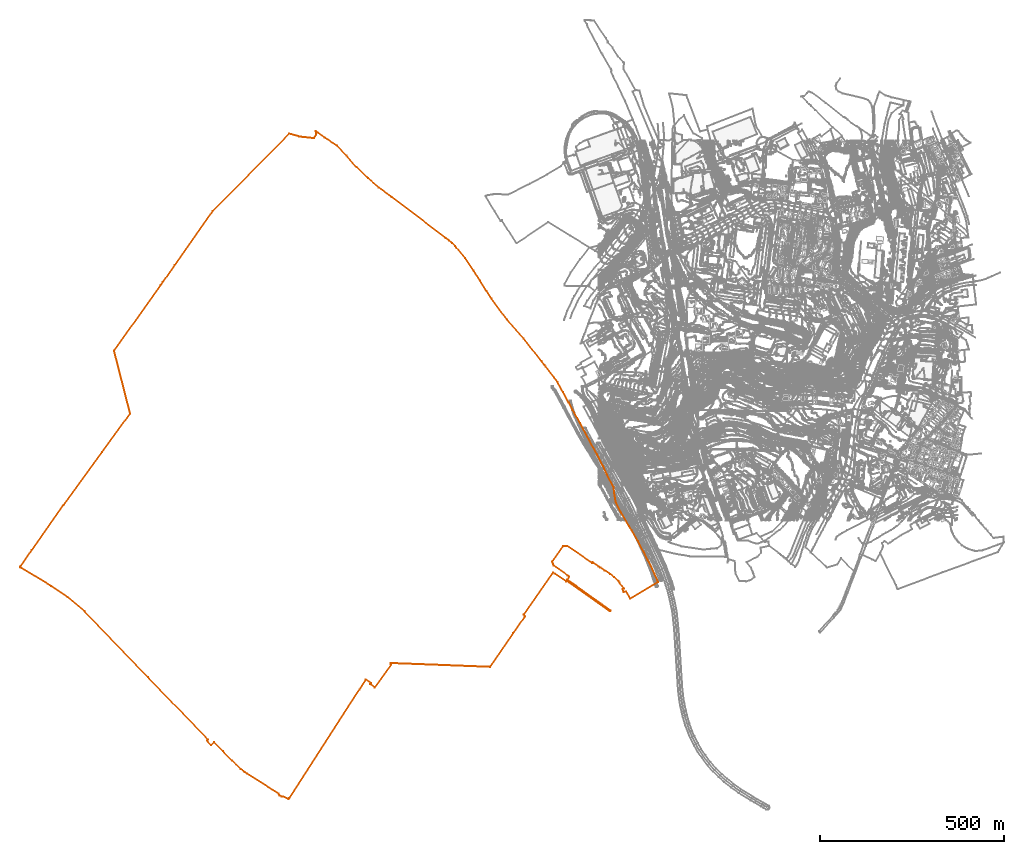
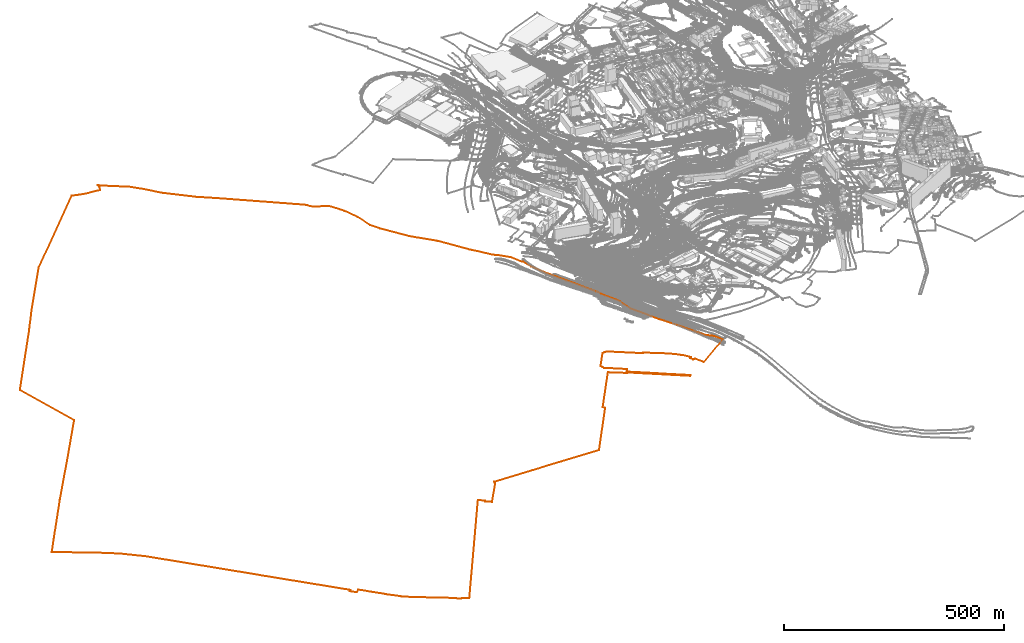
# Not in any storey, part 97 of 419: 1 proxy.
"""IFC2X3 model written with IfcOpenShell, lengths in metres."""

from ifc_helpers import new_model, entity, si_unit, frame, origin_with_axes, place, context, subcontext, project, element, save


model = new_model("IFC2X3")

# Units and contexts
model_context = context("Model", 3, precision=1e-05, world=origin_with_axes())
body_context = subcontext(model_context, "Body", "Model", "MODEL_VIEW")
ifc_project = project(units=[si_unit("AREAUNIT", "SQUARE_METRE"), si_unit("LENGTHUNIT", "METRE")], contexts=[model_context])

# Proxy
proxy_placement = place(None, frame((-1574.8479795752, -127.7023090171, 3.8900001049), z_axis=(0.0, 0.0, 1.0), x_axis=(1.0, 0.0, 0.0)))
element("IfcBuildingElementProxy", 1, at=proxy_placement, Name="Cadastre 256", ObjectType="NOTDEFINED", context=body_context, shape_type="GeometricCurveSet", body=[
    entity("IfcGeometricCurveSet", [entity("IfcPolyline", [entity("IfcCartesianPoint", [732.9199999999, 1179.0, 16.4999992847]), entity("IfcCartesianPoint", [759.98, 1171.3799999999, 16.4999992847]), entity("IfcCartesianPoint", [765.5699999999, 1170.25, 16.4999992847]), entity("IfcCartesianPoint", [800.1899999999, 1166.5599999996, 16.4999992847]), entity("IfcCartesianPoint", [805.2, 1176.4500000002, 16.4999992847]), entity("IfcCartesianPoint", [805.74, 1179.6099999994, 16.4999992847]), entity("IfcCartesianPoint", [805.51, 1182.8099999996, 16.4999992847]), entity("IfcCartesianPoint", [804.59, 1185.6299999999, 16.4999992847]), entity("IfcCartesianPoint", [810.12, 1181.6600000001, 16.4999992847]), entity("IfcCartesianPoint", [828.85, 1167.9899999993, 16.4999992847]), entity("IfcCartesianPoint", [863.01, 1145.7000000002, 16.3359993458]), entity("IfcCartesianPoint", [888.76, 1119.6099999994, 16.2799999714]), entity("IfcCartesianPoint", [915.97, 1087.21, 16.2978003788]), entity("IfcCartesianPoint", [947.14, 1057.46, 17.3800003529]), entity("IfcCartesianPoint", [975.71, 1032.3799999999, 17.2200005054]), entity("IfcCartesianPoint", [1011.2999999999, 1006.4699999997, 17.293700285]), entity("IfcCartesianPoint", [1158.2999999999, 894.96, 16.5983996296]), entity("IfcCartesianPoint", [1167.24, 888.4500000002, 16.5365001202]), entity("IfcCartesianPoint", [1175.6699999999, 881.3199999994, 16.5289999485]), entity("IfcCartesianPoint", [1183.5699999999, 873.5800000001, 14.8200000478]), entity("IfcCartesianPoint", [1187.26, 869.5599999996, 15.1374002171]), entity("IfcCartesianPoint", [1211.76, 839.71, 25.9709993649]), entity("IfcCartesianPoint", [1234.4099999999, 806.3399999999, 24.9744001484]), entity("IfcCartesianPoint", [1251.6799999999, 779.0499999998, 18.6349991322]), entity("IfcCartesianPoint", [1269.2799999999, 751.1899999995, 6.7253995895]), entity("IfcCartesianPoint", [1282.84, 729.9100000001, 5.5499994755]), entity("IfcCartesianPoint", [1325.36, 672.6899999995, 4.1987001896]), entity("IfcCartesianPoint", [1370.87, 621.5, 6.101999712]), entity("IfcCartesianPoint", [1418.96, 559.8899999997, 2.7062999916]), entity("IfcCartesianPoint", [1427.51, 549.0499999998, 2.8900001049]), entity("IfcCartesianPoint", [1430.73, 545.46, 2.8963999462]), entity("IfcCartesianPoint", [1453.74, 515.5800000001, 2.9063999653]), entity("IfcCartesianPoint", [1462.5, 503.0800000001, 6.0595997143]), entity("IfcCartesianPoint", [1477.6899999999, 475.2799999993, 11.9119996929]), entity("IfcCartesianPoint", [1492.45, 447.21, 11.1530001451]), entity("IfcCartesianPoint", [1493.9099999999, 446.6099999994, 10.9631998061]), entity("IfcCartesianPoint", [1504.23, 427.1600000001, 6.4291998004]), entity("IfcCartesianPoint", [1523.96, 391.1600000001, 2.9252000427]), entity("IfcCartesianPoint", [1549.4299999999, 344.4100000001, 1.9730999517]), entity("IfcCartesianPoint", [1570.36, 305.2999999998, 1.2079998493]), entity("IfcCartesianPoint", [1586.9299999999, 273.8999999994, 0.3538799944]), entity("IfcCartesianPoint", [1596.8099999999, 251.5800000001, -0.2332960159]), entity("IfcCartesianPoint", [1615.02, 217.6399999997, -0.9079360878]), entity("IfcCartesianPoint", [1616.62, 202.7199999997, -1.2835161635]), entity("IfcCartesianPoint", [1620.58, 178.0199999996, 0.3971200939]), entity("IfcCartesianPoint", [1635.89, 147.3700000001, 0.7430099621]), entity("IfcCartesianPoint", [1657.25, 111.21, -2.1519000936]), entity("IfcCartesianPoint", [1664.37, 100.2599999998, -1.8707001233]), entity("IfcCartesianPoint", [1681.1499999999, 70.5, -1.7213000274]), entity("IfcCartesianPoint", [1696.8099999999, 41.2999999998, -1.8600001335]), entity("IfcCartesianPoint", [1707.95, 19.3899999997, -1.4984001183]), entity("IfcCartesianPoint", [1716.0499999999, 3.6499999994, -0.9473000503]), entity("IfcCartesianPoint", [1726.6599999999, -18.9400000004, 6.0955997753]), entity("IfcCartesianPoint", [1736.5599999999, -40.5300000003, 6.1384003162]), entity("IfcCartesianPoint", [1660.61, -86.2800000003, -1.9415000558]), entity("IfcCartesianPoint", [1649.1599999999, -66.2200000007, -1.2460001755]), entity("IfcCartesianPoint", [1642.47, -68.1000000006, 0.4393998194]), entity("IfcCartesianPoint", [1639.25, -60.5100000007, 0.5252999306]), entity("IfcCartesianPoint", [1643.6799999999, -58.79, 0.3647998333]), entity("IfcCartesianPoint", [1630.89, -42.0700000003, 0.711999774]), entity("IfcCartesianPoint", [1628.3999999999, -38.8399999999, 0.1428000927]), entity("IfcCartesianPoint", [1616.85, -27.7200000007, -0.0036001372]), entity("IfcCartesianPoint", [1605.45, -18.8500000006, -0.0597001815]), entity("IfcCartesianPoint", [1590.88, -9.0700000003, 0.0531999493]), entity("IfcCartesianPoint", [1579.13, -1.21, -0.0900001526]), entity("IfcCartesianPoint", [1578.85, -1.0499999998, -0.0900001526]), entity("IfcCartesianPoint", [1574.7899999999, 1.29, -0.0070000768]), entity("IfcCartesianPoint", [1558.63, 12.8199999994, 0.0]), entity("IfcCartesianPoint", [1557.49, 11.29, 0.0]), entity("IfcCartesianPoint", [1556.87, 10.4399999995, 0.0]), entity("IfcCartesianPoint", [1488.8199999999, 57.5699999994, 0.0]), entity("IfcCartesianPoint", [1483.0699999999, 57.3199999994, 0.0]), entity("IfcCartesianPoint", [1477.77, 57.0999999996, 0.0]), entity("IfcCartesianPoint", [1448.0299999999, 15.04, 0.0]), entity("IfcCartesianPoint", [1450.09, 8.8499999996, 0.0]), entity("IfcCartesianPoint", [1451.6499999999, 4.1899999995, 0.0]), entity("IfcCartesianPoint", [1490.59, -23.4100000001, 0.0]), entity("IfcCartesianPoint", [1494.6899999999, -26.21, 0.0]), entity("IfcCartesianPoint", [1488.47, -34.3700000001, 0.0]), entity("IfcCartesianPoint", [1528.51, -62.4400000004, 0.0]), entity("IfcCartesianPoint", [1552.63, -80.0899999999, 0.0]), entity("IfcCartesianPoint", [1575.59, -96.3900000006, -0.0215002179]), entity("IfcCartesianPoint", [1584.1, -102.4700000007, -0.0966001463]), entity("IfcCartesianPoint", [1607.14, -118.6500000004, 0.011999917]), entity("IfcCartesianPoint", [1605.9399999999, -119.5200000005, -0.0450001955]), entity("IfcCartesianPoint", [1604.3099999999, -120.5700000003, -0.0461001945]), entity("IfcCartesianPoint", [1487.72, -37.8500000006, 0.0]), entity("IfcCartesianPoint", [1486.5, -39.4800000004, 0.0]), entity("IfcCartesianPoint", [1485.27, -38.6000000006, 0.0]), entity("IfcCartesianPoint", [1454.5699999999, -18.0, 0.0]), entity("IfcCartesianPoint", [1450.12, -15.1900000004, 0.0]), entity("IfcCartesianPoint", [1370.7999999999, -128.7700000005, 0.0]), entity("IfcCartesianPoint", [1373.21, -133.1600000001, 0.0]), entity("IfcCartesianPoint", [1373.88, -134.3700000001, 0.0]), entity("IfcCartesianPoint", [1342.3099999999, -179.9100000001, 0.0]), entity("IfcCartesianPoint", [1278.72, -271.5899999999, 0.0]), entity("IfcCartesianPoint", [1181.86, -267.8900000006, 0.0]), entity("IfcCartesianPoint", [1107.77, -265.0, 0.0]), entity("IfcCartesianPoint", [1009.02, -261.3200000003, 0.0]), entity("IfcCartesianPoint", [1008.96, -264.6000000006, 0.0]), entity("IfcCartesianPoint", [1010.4199999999, -265.3600000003, 0.0]), entity("IfcCartesianPoint", [965.4099999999, -327.79, 0.0]), entity("IfcCartesianPoint", [952.73, -318.46, 0.0]), entity("IfcCartesianPoint", [954.88, -315.7600000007, 0.0]), entity("IfcCartesianPoint", [941.1799999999, -305.8700000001, 0.0]), entity("IfcCartesianPoint", [923.7999999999, -332.7700000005, 0.0]), entity("IfcCartesianPoint", [732.25, -629.25, 0.0]), entity("IfcCartesianPoint", [730.59, -631.75, 0.0]), entity("IfcCartesianPoint", [715.8199999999, -624.2800000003, 0.0]), entity("IfcCartesianPoint", [711.63, -624.5200000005, 0.0]), entity("IfcCartesianPoint", [706.34, -621.2400000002, 0.0]), entity("IfcCartesianPoint", [704.2, -616.6600000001, 0.0]), entity("IfcCartesianPoint", [618.0399999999, -562.3500000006, 0.0]), entity("IfcCartesianPoint", [611.49, -557.6000000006, 0.0]), entity("IfcCartesianPoint", [600.39, -549.21, 0.0]), entity("IfcCartesianPoint", [577.1499999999, -526.9900000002, 0.0]), entity("IfcCartesianPoint", [552.33, -501.3600000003, 0.0]), entity("IfcCartesianPoint", [528.4399999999, -476.9100000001, 0.0]), entity("IfcCartesianPoint", [520.4099999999, -484.4300000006, 0.0]), entity("IfcCartesianPoint", [508.9199999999, -472.7200000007, 0.0]), entity("IfcCartesianPoint", [512.46, -469.29, 0.0]), entity("IfcCartesianPoint", [348.2999999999, -299.3900000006, 0.0]), entity("IfcCartesianPoint", [175.5499999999, -120.3500000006, 0.0]), entity("IfcCartesianPoint", [130.25, -82.0499999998, 0.0]), entity("IfcCartesianPoint", [85.51, -51.8799999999, 0.0]), entity("IfcCartesianPoint", [2.2899999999, -1.5800000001, 0.0]), entity("IfcCartesianPoint", [0.0, 0.0, 0.0]), entity("IfcCartesianPoint", [2.21, 2.8499999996, 0.0]), entity("IfcCartesianPoint", [32.63, 46.5099999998, 0.0]), entity("IfcCartesianPoint", [118.8199999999, 169.1099999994, -0.1096001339]), entity("IfcCartesianPoint", [223.3199999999, 312.5499999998, 1.513499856]), entity("IfcCartesianPoint", [300.0499999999, 417.8799999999, 7.131599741]), entity("IfcCartesianPoint", [256.26, 588.5699999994, 3.0652998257]), entity("IfcCartesianPoint", [383.1, 766.75, 12.903500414]), entity("IfcCartesianPoint", [388.61, 774.5699999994, 16.3008997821]), entity("IfcCartesianPoint", [421.5299999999, 821.46, 25.5436002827]), entity("IfcCartesianPoint", [524.99, 968.8099999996, 17.1693999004]), entity("IfcCartesianPoint", [732.9199999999, 1179.0, 16.4999992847])])]),
])

save(model, "model.ifc")
